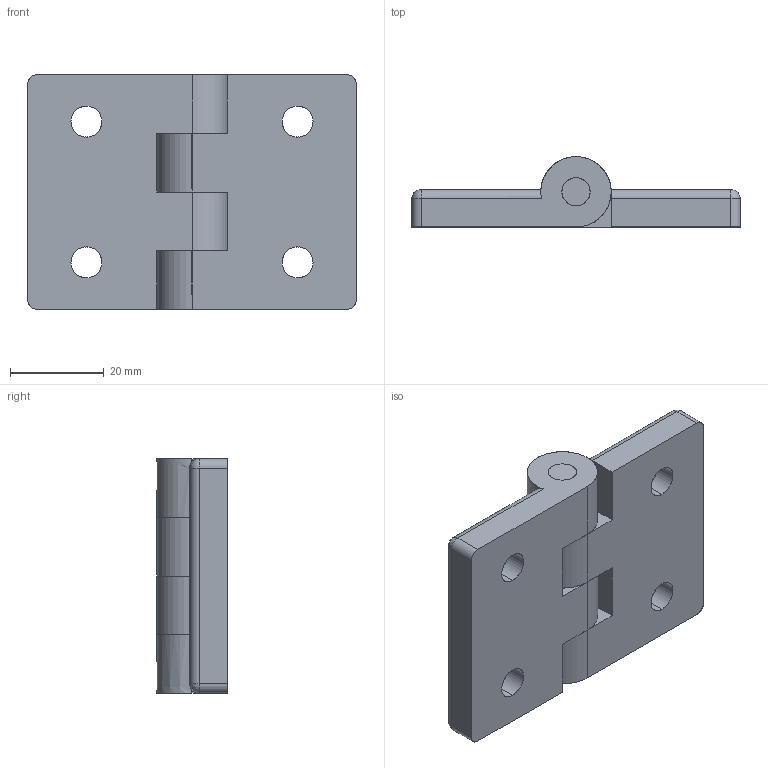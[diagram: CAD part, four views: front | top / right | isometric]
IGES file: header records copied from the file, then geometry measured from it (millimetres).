
Start section: SolidWorks IGES file using analytic representation for surfaces
Global section: file name: D:\LETROMEC CATALOGUE\Hinge\LIMA-H45X45-NEW\LIMA-H45X45-NEW.IGS; native system: SolidWorks 2013; preprocessor: SolidWorks 2013; author: User; date: 180315.205144; units: millimetre
Bounding box: 70 x 15 x 50 mm (x, y, z)
Surface area: 12995.7 mm2 (no closed solid volume)
Topology: 0 solids, 0 shells, 70 faces, 1150 edges, 1150 vertices
Faces by surface type: revolution 48, bspline 22
